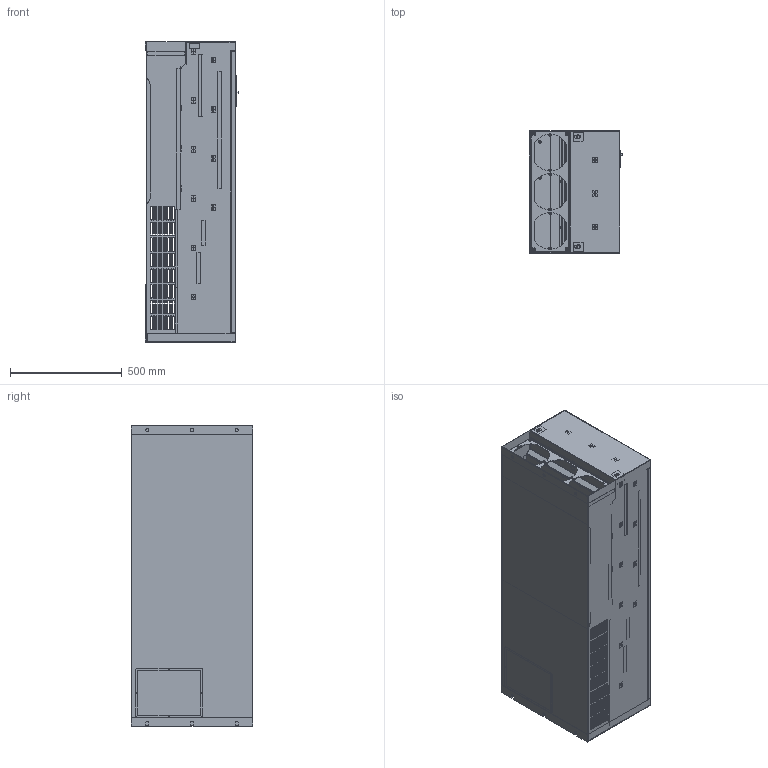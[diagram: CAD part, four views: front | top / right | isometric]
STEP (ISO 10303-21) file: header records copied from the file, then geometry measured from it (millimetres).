
FILE_DESCRIPTION(('STEP AP203'), '1');
FILE_NAME('Ïðåîáðàçîâàòåëü ÷àñòîòû _ MCI-G315_P355-4F', '', ('UNSPECIFIED'), ('UNSPECIFIED'), 'C3D Converter', 'C3D Toolkit', '');
FILE_SCHEMA(('CONFIG_CONTROL_DESIGN'));
Length unit declared in the file: millimetre
Products named in the file (42): MCI-G315_P355-4F; MCI-G315; MCI-MF-B; MCI-KP-B
Assembly tree (106 placements, depth 4):
  MCI-G315_P355-4F
    MCI-G315
      MCI-G315
      MCI-G315
      MCI-G315
        MCI-G315
        MCI-G315  x4
        MCI-G315  x4
      MCI-G315
      MCI-G315
        MCI-G315
        MCI-G315  x6
        MCI-G315  x4
      MCI-G315  x2
        MCI-G315
        MCI-G315
      MCI-G315
      MCI-G315
      MCI-G315  x2
        MCI-G315
        MCI-G315
      MCI-G315  x2
        MCI-G315
        MCI-G315
      MCI-G315  x2
        MCI-G315
        MCI-G315
      MCI-G315
      MCI-G315
        MCI-G315
        MCI-G315  x4
      MCI-G315  x2
        MCI-G315
        MCI-G315
      MCI-G315  x23
      MCI-G315  x2
        MCI-G315
        MCI-G315
      MCI-G315
        MCI-G315
        MCI-G315  x8
    MCI-G315
    MCI-G315
    MCI-G315
    MCI-G315
      MCI-G315
      MCI-G315
    MCI-MF-B
    MCI-KP-B
Bounding box: 417.37 x 545 x 1345 mm (x, y, z)
Volume: 7262017.6 mm3; surface area: 8082611.2 mm2
Topology: 104 solids, 110 shells, 3002 faces, 7634 edges, 4842 vertices
Faces by surface type: plane 1817, cylinder 1079, extrusion 48, revolution 38, cone 10, bspline 4, torus 4, sphere 2
Full cylindrical faces by diameter (mm): 0.2 x2, 1 x60, 1.7 x2, 2 x4, 2.7 x4, 3 x4, 4 x8, 4.4 x4, 5 x12, 5.4 x24, 5.5 x8, 6 x28, 6.4 x24, 6.5 x2, 7 x12, 7.9 x8, 8 x8, 8.5 x4, 8.7 x20, 8.75 x10, 8.8 x18, 10.4 x4, 10.5 x4, 11 x18, 12 x3, 12.65 x4, 13 x4, 14 x8, 14.9 x2, 15 x2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
Entity records: 71150 total; most frequent: CARTESIAN_POINT 13455, DIRECTION 10693, ORIENTED_EDGE 10552, EDGE_CURVE 5279, VECTOR 3791, LINE 3743, VERTEX_POINT 3475, AXIS2_PLACEMENT_3D 3441
